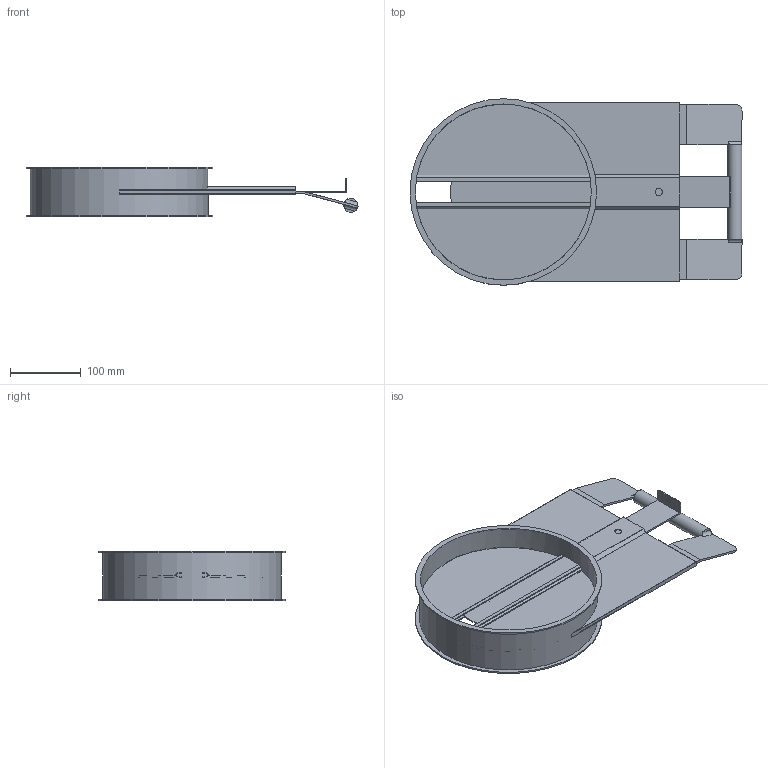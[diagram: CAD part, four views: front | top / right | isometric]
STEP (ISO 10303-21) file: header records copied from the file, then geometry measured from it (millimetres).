
FILE_DESCRIPTION((''),'2;1');
FILE_NAME('U:\Wolfgang\Marcel-3D\fertig\Kapitel 9\2521079.stp','2011-10-11T13:06:06',('iwienholt'),(''),'Autodesk Inventor 2010','Autodesk Inventor 2010','');
FILE_SCHEMA(('AUTOMOTIVE_DESIGN { 1 0 10303 214 1 1 1 1 }'));
Length unit declared in the file: millimetre
Products named in the file (4): 2521079; Dosierzunge DN250; Rohr mit Führung DN250; Schieberblech DN250
Assembly tree (3 placements, depth 2):
  2521079
    Dosierzunge DN250
    Rohr mit Führung DN250
    Schieberblech DN250
Bounding box: 469.77 x 264 x 70 mm (x, y, z)
Volume: 510925 mm3; surface area: 533821.3 mm2
Topology: 3 solids, 3 shells, 86 faces, 242 edges, 161 vertices
Faces by surface type: plane 59, cylinder 19, bspline 8
Full cylindrical faces by diameter (mm): 20 x1, 249 x1, 252 x1, 264 x2
Entity records: 2947 total; most frequent: CARTESIAN_POINT 634, ORIENTED_EDGE 458, DIRECTION 455, EDGE_CURVE 229, VECTOR 157, LINE 157, VERTEX_POINT 156, AXIS2_PLACEMENT_3D 149
